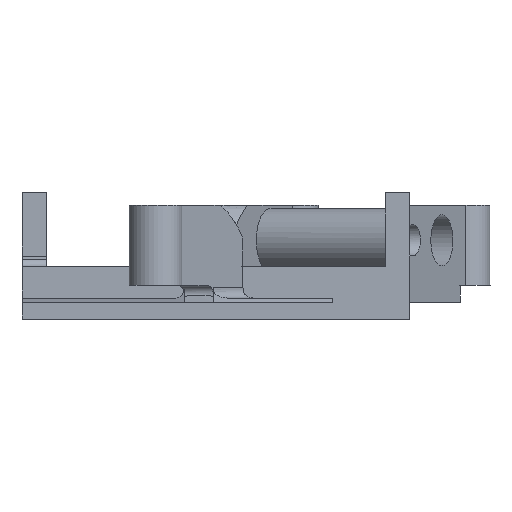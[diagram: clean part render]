
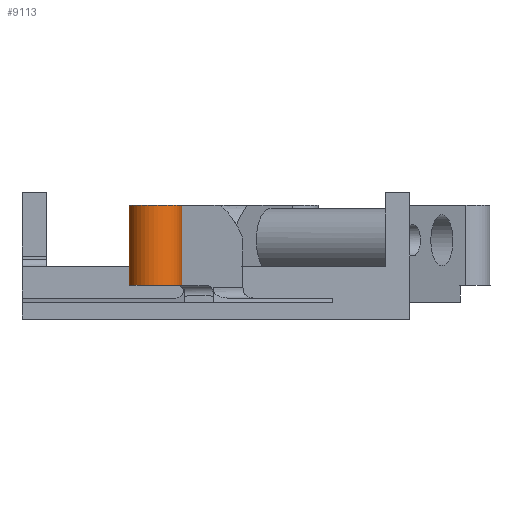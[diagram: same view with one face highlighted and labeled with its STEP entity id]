
A CAD part, left-side view. The second image highlights one B-rep face of the part: STEP entity #9113.
In plain terms, the highlighted cylindrical face has radius 2.5 mm (diameter 5 mm), a partial arc.
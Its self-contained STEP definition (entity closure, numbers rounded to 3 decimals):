
#677 = PLANE('',#678);
#678 = AXIS2_PLACEMENT_3D('',#679,#680,#681);
#679 = CARTESIAN_POINT('',(213.243,-8.856,5.973
    ));
#680 = DIRECTION('',(-0.561,-0.828,0.
    ));
#681 = DIRECTION('',(0.,0.,1.));
#1826 = PLANE('',#1827);
#1827 = AXIS2_PLACEMENT_3D('',#1828,#1829,#1830);
#1828 = CARTESIAN_POINT('',(213.208,-6.054,
    5.882));
#1829 = DIRECTION('',(0.561,0.828,0.)
  );
#1830 = DIRECTION('',(0.,0.,-1.));
#2035 = PLANE('',#2036);
#2036 = AXIS2_PLACEMENT_3D('',#2037,#2038,#2039);
#2037 = CARTESIAN_POINT('',(205.57,-2.54,
    10.8));
#2038 = DIRECTION('',(0.,0.,1.));
#2039 = DIRECTION('',(0.,1.,0.));
#2580 = VERTEX_POINT('',#2581);
#2581 = CARTESIAN_POINT('',(208.181,-2.652,
    10.8));
#2602 = EDGE_CURVE('',#2580,#2603,#2605,.T.);
#2603 = VERTEX_POINT('',#2604);
#2604 = CARTESIAN_POINT('',(207.069,-4.676,
    10.8));
#2605 = SURFACE_CURVE('',#2606,(#2611,#2618),.PCURVE_S1.);
#2606 = CIRCLE('',#2607,2.5);
#2607 = AXIS2_PLACEMENT_3D('',#2608,#2609,#2610);
#2608 = CARTESIAN_POINT('',(205.682,-2.596,
    10.8));
#2609 = DIRECTION('',(0.,0.,1.));
#2610 = DIRECTION('',(1.,-0.022,0.));
#2611 = PCURVE('',#2035,#2612);
#2612 = DEFINITIONAL_REPRESENTATION('',(#2613),#2617);
#2613 = CIRCLE('',#2614,2.5);
#2614 = AXIS2_PLACEMENT_2D('',#2615,#2616);
#2615 = CARTESIAN_POINT('',(-0.056,-0.112));
#2616 = DIRECTION('',(-0.022,-1.));
#2617 = ( GEOMETRIC_REPRESENTATION_CONTEXT(2) 
PARAMETRIC_REPRESENTATION_CONTEXT() REPRESENTATION_CONTEXT('2D SPACE',''
  ) );
#2618 = PCURVE('',#2619,#2624);
#2619 = CYLINDRICAL_SURFACE('',#2620,2.5);
#2620 = AXIS2_PLACEMENT_3D('',#2621,#2622,#2623);
#2621 = CARTESIAN_POINT('',(205.682,-2.596,7.));
#2622 = DIRECTION('',(0.,0.,1.));
#2623 = DIRECTION('',(0.876,-0.482,0.));
#2624 = DEFINITIONAL_REPRESENTATION('',(#2625),#2629);
#2625 = LINE('',#2626,#2627);
#2626 = CARTESIAN_POINT('',(0.48,3.8));
#2627 = VECTOR('',#2628,1.);
#2628 = DIRECTION('',(1.,0.));
#2629 = ( GEOMETRIC_REPRESENTATION_CONTEXT(2) 
PARAMETRIC_REPRESENTATION_CONTEXT() REPRESENTATION_CONTEXT('2D SPACE',''
  ) );
#6119 = EDGE_CURVE('',#2603,#6120,#6122,.T.);
#6120 = VERTEX_POINT('',#6121);
#6121 = CARTESIAN_POINT('',(207.069,-4.676,
    3.2));
#6122 = SURFACE_CURVE('',#6123,(#6127,#6134),.PCURVE_S1.);
#6123 = LINE('',#6124,#6125);
#6124 = CARTESIAN_POINT('',(207.069,-4.676,
    10.8));
#6125 = VECTOR('',#6126,1.);
#6126 = DIRECTION('',(0.,0.,-1.));
#6127 = PCURVE('',#677,#6128);
#6128 = DEFINITIONAL_REPRESENTATION('',(#6129),#6133);
#6129 = LINE('',#6130,#6131);
#6130 = CARTESIAN_POINT('',(4.827,7.456));
#6131 = VECTOR('',#6132,1.);
#6132 = DIRECTION('',(-1.,0.));
#6133 = ( GEOMETRIC_REPRESENTATION_CONTEXT(2) 
PARAMETRIC_REPRESENTATION_CONTEXT() REPRESENTATION_CONTEXT('2D SPACE',''
  ) );
#6134 = PCURVE('',#2619,#6135);
#6135 = DEFINITIONAL_REPRESENTATION('',(#6136),#6140);
#6136 = LINE('',#6137,#6138);
#6137 = CARTESIAN_POINT('',(5.803,3.8));
#6138 = VECTOR('',#6139,1.);
#6139 = DIRECTION('',(0.,-1.));
#6140 = ( GEOMETRIC_REPRESENTATION_CONTEXT(2) 
PARAMETRIC_REPRESENTATION_CONTEXT() REPRESENTATION_CONTEXT('2D SPACE',''
  ) );
#6158 = PLANE('',#6159);
#6159 = AXIS2_PLACEMENT_3D('',#6160,#6161,#6162);
#6160 = CARTESIAN_POINT('',(205.557,-2.531,
    3.2));
#6161 = DIRECTION('',(-0.,-0.,-1.));
#6162 = DIRECTION('',(0.,-1.,0.));
#8202 = VERTEX_POINT('',#8203);
#8203 = CARTESIAN_POINT('',(208.181,-2.652,
    3.2));
#8278 = EDGE_CURVE('',#6120,#8202,#8279,.T.);
#8279 = SURFACE_CURVE('',#8280,(#8285,#8292),.PCURVE_S1.);
#8280 = CIRCLE('',#8281,2.5);
#8281 = AXIS2_PLACEMENT_3D('',#8282,#8283,#8284);
#8282 = CARTESIAN_POINT('',(205.682,-2.596,
    3.2));
#8283 = DIRECTION('',(0.,-0.,-1.));
#8284 = DIRECTION('',(0.555,-0.832,0.));
#8285 = PCURVE('',#6158,#8286);
#8286 = DEFINITIONAL_REPRESENTATION('',(#8287),#8291);
#8287 = CIRCLE('',#8288,2.5);
#8288 = AXIS2_PLACEMENT_2D('',#8289,#8290);
#8289 = CARTESIAN_POINT('',(0.065,-0.125));
#8290 = DIRECTION('',(0.832,-0.555));
#8291 = ( GEOMETRIC_REPRESENTATION_CONTEXT(2) 
PARAMETRIC_REPRESENTATION_CONTEXT() REPRESENTATION_CONTEXT('2D SPACE',''
  ) );
#8292 = PCURVE('',#2619,#8293);
#8293 = DEFINITIONAL_REPRESENTATION('',(#8294),#8298);
#8294 = LINE('',#8295,#8296);
#8295 = CARTESIAN_POINT('',(5.803,-3.8));
#8296 = VECTOR('',#8297,1.);
#8297 = DIRECTION('',(-1.,0.));
#8298 = ( GEOMETRIC_REPRESENTATION_CONTEXT(2) 
PARAMETRIC_REPRESENTATION_CONTEXT() REPRESENTATION_CONTEXT('2D SPACE',''
  ) );
#9113 = ADVANCED_FACE('',(#9114),#2619,.T.);
#9114 = FACE_BOUND('',#9115,.T.);
#9115 = EDGE_LOOP('',(#9116,#9137,#9138,#9139));
#9116 = ORIENTED_EDGE('',*,*,#9117,.T.);
#9117 = EDGE_CURVE('',#2580,#8202,#9118,.T.);
#9118 = SURFACE_CURVE('',#9119,(#9123,#9130),.PCURVE_S1.);
#9119 = LINE('',#9120,#9121);
#9120 = CARTESIAN_POINT('',(208.181,-2.652,
    10.8));
#9121 = VECTOR('',#9122,1.);
#9122 = DIRECTION('',(0.,0.,-1.));
#9123 = PCURVE('',#2619,#9124);
#9124 = DEFINITIONAL_REPRESENTATION('',(#9125),#9129);
#9125 = LINE('',#9126,#9127);
#9126 = CARTESIAN_POINT('',(0.48,3.8));
#9127 = VECTOR('',#9128,1.);
#9128 = DIRECTION('',(0.,-1.));
#9129 = ( GEOMETRIC_REPRESENTATION_CONTEXT(2) 
PARAMETRIC_REPRESENTATION_CONTEXT() REPRESENTATION_CONTEXT('2D SPACE',''
  ) );
#9130 = PCURVE('',#1826,#9131);
#9131 = DEFINITIONAL_REPRESENTATION('',(#9132),#9136);
#9132 = LINE('',#9133,#9134);
#9133 = CARTESIAN_POINT('',(-4.918,6.07));
#9134 = VECTOR('',#9135,1.);
#9135 = DIRECTION('',(1.,0.));
#9136 = ( GEOMETRIC_REPRESENTATION_CONTEXT(2) 
PARAMETRIC_REPRESENTATION_CONTEXT() REPRESENTATION_CONTEXT('2D SPACE',''
  ) );
#9137 = ORIENTED_EDGE('',*,*,#8278,.F.);
#9138 = ORIENTED_EDGE('',*,*,#6119,.F.);
#9139 = ORIENTED_EDGE('',*,*,#2602,.F.);
